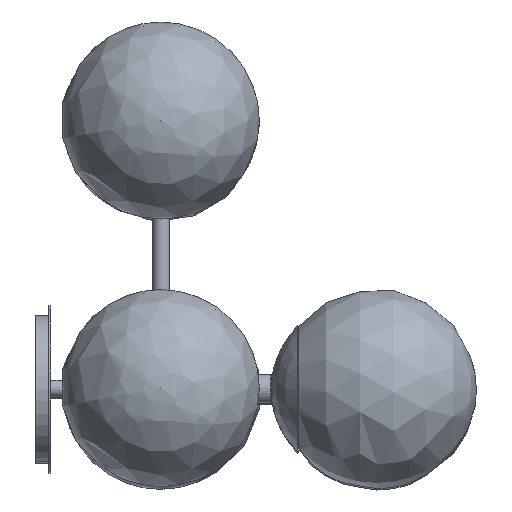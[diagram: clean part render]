
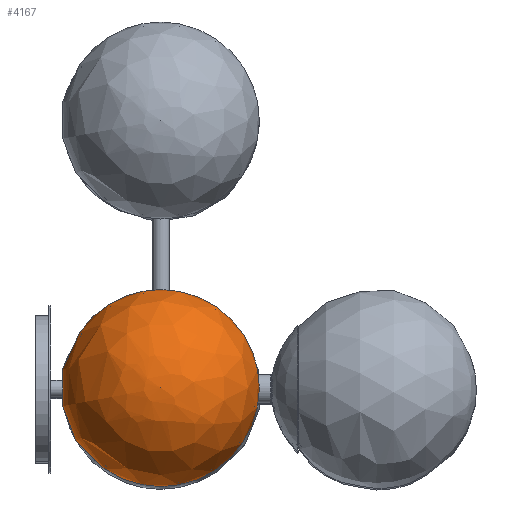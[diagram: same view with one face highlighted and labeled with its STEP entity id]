
A CAD part, top view. The second image highlights one B-rep face of the part: STEP entity #4167.
In plain terms, the highlighted free-form (B-spline) face has degree [2, 2] with [5, 9] control points.
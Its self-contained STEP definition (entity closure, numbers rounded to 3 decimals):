
#27=(
BOUNDED_SURFACE()
B_SPLINE_SURFACE(2,2,((#7282,#7283,#7284,#7285,#7286,#7287,#7288,#7289,
#7290),(#7291,#7292,#7293,#7294,#7295,#7296,#7297,#7298,#7299),(#7300,#7301,
#7302,#7303,#7304,#7305,#7306,#7307,#7308),(#7309,#7310,#7311,#7312,#7313,
#7314,#7315,#7316,#7317),(#7318,#7319,#7320,#7321,#7322,#7323,#7324,#7325,
#7326)),.UNSPECIFIED.,.F.,.T.,.F.)
B_SPLINE_SURFACE_WITH_KNOTS((3,2,3),(3,2,2,2,3),(-1.227,0.173,
1.572),(-3.142,-1.571,0.,1.571,
3.142),.UNSPECIFIED.)
GEOMETRIC_REPRESENTATION_ITEM()
RATIONAL_B_SPLINE_SURFACE(((1.,0.707,1.,0.707,1.,
0.707,1.,0.707,1.),(0.765,0.541,
0.765,0.541,0.765,0.541,
0.765,0.541,0.765),(1.,0.707,
1.,0.707,1.,0.707,1.,0.707,1.),(0.765,
0.541,0.765,0.541,0.765,
0.541,0.765,0.541,0.765),
(1.,0.707,1.,0.707,1.,0.707,1.,0.707,
1.)))
REPRESENTATION_ITEM('')
SURFACE()
);
#874=FACE_OUTER_BOUND('',#1238,.T.);
#1238=EDGE_LOOP('',(#3228,#3229,#3230));
#1620=CIRCLE('',#4710,25.378);
#1622=CIRCLE('',#4712,75.);
#1990=VERTEX_POINT('',#7279);
#1991=VERTEX_POINT('',#7327);
#2438=EDGE_CURVE('',#1990,#1990,#1620,.T.);
#2440=EDGE_CURVE('',#1991,#1990,#1622,.T.);
#3228=ORIENTED_EDGE('',*,*,#2440,.T.);
#3229=ORIENTED_EDGE('',*,*,#2438,.T.);
#3230=ORIENTED_EDGE('',*,*,#2440,.F.);
#4167=ADVANCED_FACE('',(#874),#27,.F.);
#4710=AXIS2_PLACEMENT_3D('',#7280,#5766,#5767);
#4712=AXIS2_PLACEMENT_3D('',#7328,#5770,#5771);
#5766=DIRECTION('center_axis',(0.,0.,
1.));
#5767=DIRECTION('ref_axis',(-0.182,0.983,0.));
#5770=DIRECTION('center_axis',(0.182,-0.983,0.));
#5771=DIRECTION('ref_axis',(-0.983,-0.182,0.));
#7279=CARTESIAN_POINT('',(-24.956,-4.611,1247.813));
#7280=CARTESIAN_POINT('Origin',(0.,0.,
1247.813));
#7282=CARTESIAN_POINT('Ctrl Pts',(-24.956,-4.611,1247.813));
#7283=CARTESIAN_POINT('Ctrl Pts',(-20.344,-29.567,1247.813));
#7284=CARTESIAN_POINT('Ctrl Pts',(4.611,-24.956,1247.813));
#7285=CARTESIAN_POINT('Ctrl Pts',(29.567,-20.344,1247.813));
#7286=CARTESIAN_POINT('Ctrl Pts',(24.956,4.611,1247.813));
#7287=CARTESIAN_POINT('Ctrl Pts',(20.344,29.567,1247.813));
#7288=CARTESIAN_POINT('Ctrl Pts',(-4.611,24.956,1247.813));
#7289=CARTESIAN_POINT('Ctrl Pts',(-29.567,20.344,1247.813));
#7290=CARTESIAN_POINT('Ctrl Pts',(-24.956,-4.611,1247.813));
#7291=CARTESIAN_POINT('Ctrl Pts',(-83.428,-15.416,1269.089));
#7292=CARTESIAN_POINT('Ctrl Pts',(-68.012,-98.844,1269.089));
#7293=CARTESIAN_POINT('Ctrl Pts',(15.416,-83.428,1269.089));
#7294=CARTESIAN_POINT('Ctrl Pts',(98.844,-68.012,1269.089));
#7295=CARTESIAN_POINT('Ctrl Pts',(83.428,15.416,1269.089));
#7296=CARTESIAN_POINT('Ctrl Pts',(68.012,98.844,1269.089));
#7297=CARTESIAN_POINT('Ctrl Pts',(-15.416,83.428,1269.089));
#7298=CARTESIAN_POINT('Ctrl Pts',(-98.844,68.012,1269.089));
#7299=CARTESIAN_POINT('Ctrl Pts',(-83.428,-15.416,1269.089));
#7300=CARTESIAN_POINT('Ctrl Pts',(-72.765,-13.445,1331.305));
#7301=CARTESIAN_POINT('Ctrl Pts',(-59.32,-86.211,1331.305));
#7302=CARTESIAN_POINT('Ctrl Pts',(13.445,-72.765,1331.305));
#7303=CARTESIAN_POINT('Ctrl Pts',(86.211,-59.32,1331.305));
#7304=CARTESIAN_POINT('Ctrl Pts',(72.765,13.445,1331.305));
#7305=CARTESIAN_POINT('Ctrl Pts',(59.32,86.211,1331.305));
#7306=CARTESIAN_POINT('Ctrl Pts',(-13.445,72.765,1331.305));
#7307=CARTESIAN_POINT('Ctrl Pts',(-86.211,59.32,1331.305));
#7308=CARTESIAN_POINT('Ctrl Pts',(-72.765,-13.445,1331.305));
#7309=CARTESIAN_POINT('Ctrl Pts',(-62.103,-11.475,1393.521));
#7310=CARTESIAN_POINT('Ctrl Pts',(-50.627,-73.578,1393.521));
#7311=CARTESIAN_POINT('Ctrl Pts',(11.475,-62.103,1393.521));
#7312=CARTESIAN_POINT('Ctrl Pts',(73.578,-50.627,1393.521));
#7313=CARTESIAN_POINT('Ctrl Pts',(62.103,11.475,1393.521));
#7314=CARTESIAN_POINT('Ctrl Pts',(50.627,73.578,1393.521));
#7315=CARTESIAN_POINT('Ctrl Pts',(-11.475,62.103,1393.521));
#7316=CARTESIAN_POINT('Ctrl Pts',(-73.578,50.627,1393.521));
#7317=CARTESIAN_POINT('Ctrl Pts',(-62.103,-11.475,1393.521));
#7318=CARTESIAN_POINT('Ctrl Pts',(0.,0.,
1393.428));
#7319=CARTESIAN_POINT('Ctrl Pts',(0.,0.,
1393.428));
#7320=CARTESIAN_POINT('Ctrl Pts',(0.,0.,
1393.428));
#7321=CARTESIAN_POINT('Ctrl Pts',(0.,0.,
1393.428));
#7322=CARTESIAN_POINT('Ctrl Pts',(0.,0.,
1393.428));
#7323=CARTESIAN_POINT('Ctrl Pts',(0.,0.,
1393.428));
#7324=CARTESIAN_POINT('Ctrl Pts',(0.,0.,
1393.428));
#7325=CARTESIAN_POINT('Ctrl Pts',(0.,0.,
1393.428));
#7326=CARTESIAN_POINT('Ctrl Pts',(0.,0.,
1393.428));
#7327=CARTESIAN_POINT('',(0.,0.,1393.428));
#7328=CARTESIAN_POINT('Origin',(-0.109,-0.02,1318.428));
